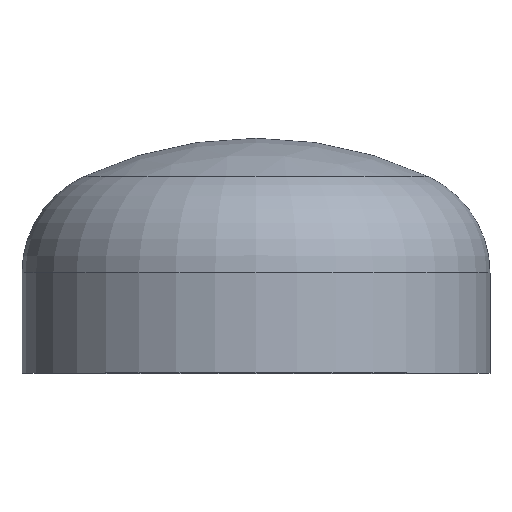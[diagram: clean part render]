
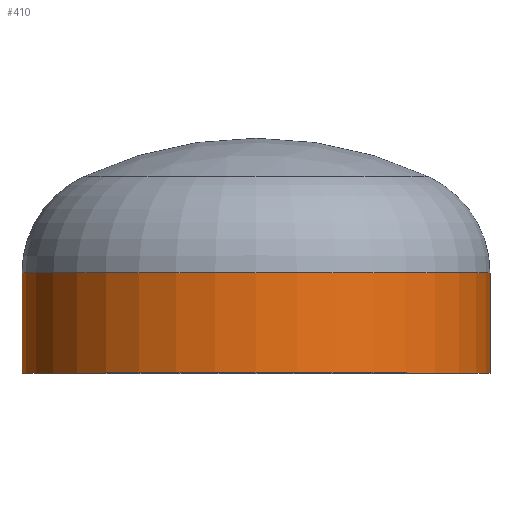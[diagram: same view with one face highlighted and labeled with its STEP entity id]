
A CAD part, top view. The second image highlights one B-rep face of the part: STEP entity #410.
In plain terms, the highlighted cylindrical face has radius 350 mm (diameter 700 mm), a partial arc.
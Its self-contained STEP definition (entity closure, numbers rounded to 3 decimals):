
#6 = AXIS2_PLACEMENT_3D ( 'NONE', #309, #133, #344 ) ;
#38 = CIRCLE ( 'NONE', #45, 350. ) ;
#44 = DIRECTION ( 'NONE',  ( 0., -1., 0. ) ) ;
#45 = AXIS2_PLACEMENT_3D ( 'NONE', #109, #44, #51 ) ;
#51 = DIRECTION ( 'NONE',  ( 1., 0., 0. ) ) ;
#72 = EDGE_CURVE ( 'NONE', #350, #142, #352, .T. ) ;
#74 = EDGE_CURVE ( 'NONE', #247, #185, #181, .T. ) ;
#75 = ORIENTED_EDGE ( 'NONE', *, *, #380, .F. ) ;
#85 = FACE_OUTER_BOUND ( 'NONE', #281, .T. ) ;
#98 = VECTOR ( 'NONE', #199, 1000. ) ;
#109 = CARTESIAN_POINT ( 'NONE',  ( 0., 150., 0. ) ) ;
#133 = DIRECTION ( 'NONE',  ( 0., -1., 0. ) ) ;
#142 = VERTEX_POINT ( 'NONE', #232 ) ;
#154 = CARTESIAN_POINT ( 'NONE',  ( -350., 150., 0. ) ) ;
#181 = LINE ( 'NONE', #200, #334 ) ;
#185 = VERTEX_POINT ( 'NONE', #212 ) ;
#198 = DIRECTION ( 'NONE',  ( 0., -1., 0. ) ) ;
#199 = DIRECTION ( 'NONE',  ( 0., -1., 0. ) ) ;
#200 = CARTESIAN_POINT ( 'NONE',  ( 350., 0., 0. ) ) ;
#204 = CARTESIAN_POINT ( 'NONE',  ( -350., 0., 0. ) ) ;
#212 = CARTESIAN_POINT ( 'NONE',  ( 350., 0., 0. ) ) ;
#218 = DIRECTION ( 'NONE',  ( 1., 0., 0. ) ) ;
#228 = AXIS2_PLACEMENT_3D ( 'NONE', #389, #365, #218 ) ;
#231 = CARTESIAN_POINT ( 'NONE',  ( 350., 150., 0. ) ) ;
#232 = CARTESIAN_POINT ( 'NONE',  ( -350., 0., 0. ) ) ;
#243 = CYLINDRICAL_SURFACE ( 'NONE', #228, 350. ) ;
#247 = VERTEX_POINT ( 'NONE', #231 ) ;
#281 = EDGE_LOOP ( 'NONE', ( #396, #289, #75, #348 ) ) ;
#289 = ORIENTED_EDGE ( 'NONE', *, *, #72, .T. ) ;
#309 = CARTESIAN_POINT ( 'NONE',  ( 0., 0., 0. ) ) ;
#317 = EDGE_CURVE ( 'NONE', #247, #350, #38, .T. ) ;
#334 = VECTOR ( 'NONE', #198, 1000. ) ;
#344 = DIRECTION ( 'NONE',  ( 1., 0., 0. ) ) ;
#348 = ORIENTED_EDGE ( 'NONE', *, *, #74, .F. ) ;
#350 = VERTEX_POINT ( 'NONE', #154 ) ;
#352 = LINE ( 'NONE', #204, #98 ) ;
#353 = CIRCLE ( 'NONE', #6, 350. ) ;
#365 = DIRECTION ( 'NONE',  ( 0., -1., 0. ) ) ;
#380 = EDGE_CURVE ( 'NONE', #185, #142, #353, .T. ) ;
#389 = CARTESIAN_POINT ( 'NONE',  ( 0., 0., 0. ) ) ;
#396 = ORIENTED_EDGE ( 'NONE', *, *, #317, .T. ) ;
#410 = ADVANCED_FACE ( 'NONE', ( #85 ), #243, .T. ) ;
